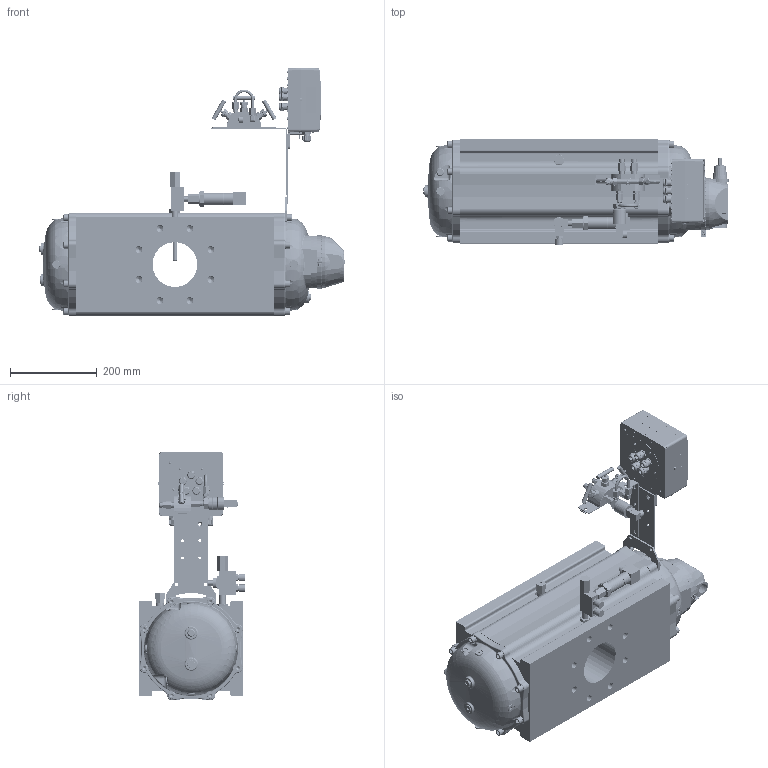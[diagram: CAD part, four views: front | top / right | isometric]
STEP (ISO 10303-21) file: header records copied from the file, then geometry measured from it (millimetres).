
FILE_DESCRIPTION(('STEP AP242'), '1');
FILE_NAME('ÝÐ-245-G400-100 áåç èñòîðèè', '', ('UNSPECIFIED'), ('UNSPECIFIED'), 'C3D Converter', 'C3D Toolkit', '');
FILE_SCHEMA(('AP242_MANAGED_MODEL_BASED_3D_ENGINEERING_MIM_LF { 1 0 10303 442 1 1 4 }'));
Length unit declared in the file: millimetre
Bounding box: 705 x 244.92 x 573.39 mm (x, y, z)
Volume: 29286570.8 mm3; surface area: 1643950 mm2
Topology: 166 solids, 168 shells, 33477 faces, 90824 edges, 59976 vertices
Faces by surface type: plane 15510, extrusion 11492, cylinder 4358, cone 802, bspline 749, torus 489, sphere 77
Full cylindrical faces by diameter (mm): 1.5 x1, 1.95 x3, 2 x12, 2.459 x22, 2.5 x4, 2.791 x2, 2.9 x4, 3 x30, 3.2 x13, 3.242 x12, 3.3 x6, 3.45 x7, 3.5 x16, 4 x22, 4.1 x8, 4.134 x1, 4.2 x12, 4.4 x1, 4.917 x3, 5 x22, 5.2 x4, 5.5 x20, 5.6 x20, 6 x15, 6.2 x2, 6.4 x6, 6.5 x8, 7 x20, 8 x22, 8.376 x16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
Entity records: 1445312 total; most frequent: CARTESIAN_POINT 403264, ORIENTED_EDGE 178408, DIRECTION 127765, EDGE_CURVE 89204, VECTOR 63333, VERTEX_POINT 59893, LINE 51841, EDGE_LOOP 37698
